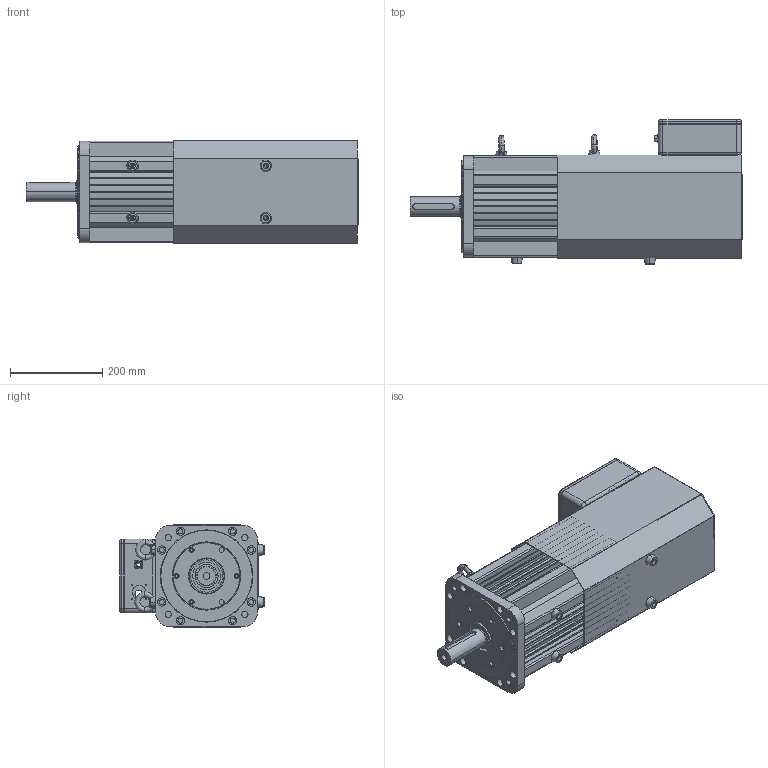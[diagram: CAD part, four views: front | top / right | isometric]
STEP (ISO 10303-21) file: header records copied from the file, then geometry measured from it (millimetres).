
FILE_DESCRIPTION(('FreeCAD Model'),'2;1');
FILE_NAME('Open CASCADE Shape Model','2025-03-17T17:20:11',('Author'),( ''),'Open CASCADE STEP processor 7.6','FreeCAD','Unknown');
FILE_SCHEMA(('AUTOMOTIVE_DESIGN { 1 0 10303 214 1 1 1 1 }'));
Length unit declared in the file: millimetre
Products named in the file (26): PSM-220STE-TL96015BZ-415P0; PSM-220STE-TL96015BZ-415P001; PSM-220STE-TL96015BZ-415P002; PSM-220STE-TL96015BZ-415P003; PSM-220STE-TL96015BZ-415P004; PSM-220STE-TL96015BZ-415P005; PSM-220STE-TL96015BZ-415P0PSM-220STE-TL96015BZ-415P0; PSM-220STE-TL96015BZ-415P006; PSM-220STE-TL96015BZ-415P007; PSM-220STE-TL96015BZ-415P008; PSM-220STE-TL96015BZ-415P009; PSM-220STE-TL96015BZ-415P010; PSM-220STE-TL96015BZ-415P011; PSM-220STE-TL96015BZ-415P012; PSM-220STE-TL96015BZ-415P0PSM-220STE-TL96015BZ-415P001; PSM-220STE-TL96015BZ-415P013; PSM-220STE-TL96015BZ-415P014; PSM-220STE-TL96015BZ-415P015; PSM-220STE-TL96015BZ-415P016; PSM-220STE-TL96015BZ-415P020; PSM-220STE-TL96015BZ-415P017; PSM-220STE-TL96015BZ-415P018; PSM-220STE-TL96015BZ-415P021; PSM-220STE-TL96015BZ-415P0PSM-220STE-TL96015BZ-415P003; PSM-220STE-TL96015BZ-415P019; PSM-220STE-TL96015BZ-415P0PSM-220STE-TL96015BZ-415P0PSM-220STE-TL96015B
Z-415P0PSM-220STE-TL96015BZ-415P0
Assembly tree (25 placements, depth 2):
  PSM-220STE-TL96015BZ-415P0
    PSM-220STE-TL96015BZ-415P001
    PSM-220STE-TL96015BZ-415P002
    PSM-220STE-TL96015BZ-415P003
    PSM-220STE-TL96015BZ-415P004
    PSM-220STE-TL96015BZ-415P005
    PSM-220STE-TL96015BZ-415P0PSM-220STE-TL96015BZ-415P0
    PSM-220STE-TL96015BZ-415P006
    PSM-220STE-TL96015BZ-415P007
    PSM-220STE-TL96015BZ-415P008
    PSM-220STE-TL96015BZ-415P009
    PSM-220STE-TL96015BZ-415P010
    PSM-220STE-TL96015BZ-415P011
    PSM-220STE-TL96015BZ-415P012
    PSM-220STE-TL96015BZ-415P0PSM-220STE-TL96015BZ-415P001
    PSM-220STE-TL96015BZ-415P013
    PSM-220STE-TL96015BZ-415P014
    PSM-220STE-TL96015BZ-415P015
    PSM-220STE-TL96015BZ-415P016
    PSM-220STE-TL96015BZ-415P020
    PSM-220STE-TL96015BZ-415P017
    PSM-220STE-TL96015BZ-415P018
    PSM-220STE-TL96015BZ-415P021
    PSM-220STE-TL96015BZ-415P0PSM-220STE-TL96015BZ-415P003
    PSM-220STE-TL96015BZ-415P019
    PSM-220STE-TL96015BZ-415P0PSM-220STE-TL96015BZ-415P0PSM-220STE-TL96015B
Z-415P0PSM-220STE-TL96015BZ-415P0
Bounding box: 719.25 x 312 x 223 mm (x, y, z)
Surface area: 1483541.5 mm2 (no closed solid volume)
Topology: 0 solids, 25 shells, 655 faces, 2144 edges, 1472 vertices
Faces by surface type: cylinder 321, plane 194, torus 92, cone 38, bspline 6, revolution 4
Entity records: 27347 total; most frequent: CARTESIAN_POINT 7645, DIRECTION 4370, ORIENTED_EDGE 3367, EDGE_CURVE 2140, AXIS2_PLACEMENT_3D 1751, VERTEX_POINT 1472, CIRCLE 1080, LINE 864
